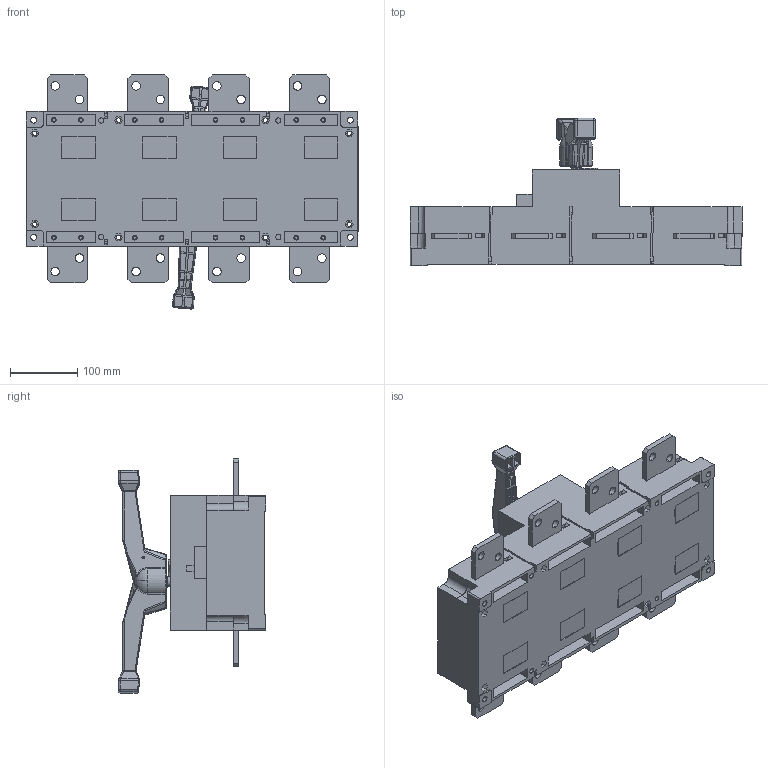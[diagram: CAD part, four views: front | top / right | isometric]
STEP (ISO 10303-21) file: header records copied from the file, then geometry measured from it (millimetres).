
FILE_DESCRIPTION (( 'STEP AP203' ), '1' );
FILE_NAME ('DNH8(HGL)-10004蚾饜尨砩芞.STEP', '2021-12-02T04:42:02', ( '' ), ( '' ), 'SwSTEP 2.0', 'SolidWorks 2019', '' );
FILE_SCHEMA (( 'CONFIG_CONTROL_DESIGN' ));
Products named in the file (1): DNH8(HGL)-10004蚾饜尨砩芞
Bounding box: 493 x 218.74 x 347.54 mm (x, y, z)
Volume: 9586120.5 mm3; surface area: 844777.7 mm2
Topology: 3 solids, 14 shells, 2023 faces, 5404 edges, 3456 vertices
Faces by surface type: plane 1483, cylinder 351, cone 97, bspline 72, torus 20
Entity records: 64718 total; most frequent: CARTESIAN_POINT 14193, ORIENTED_EDGE 10758, DIRECTION 9899, EDGE_CURVE 5379, VECTOR 4279, LINE 4279, VERTEX_POINT 3456, AXIS2_PLACEMENT_3D 2810
